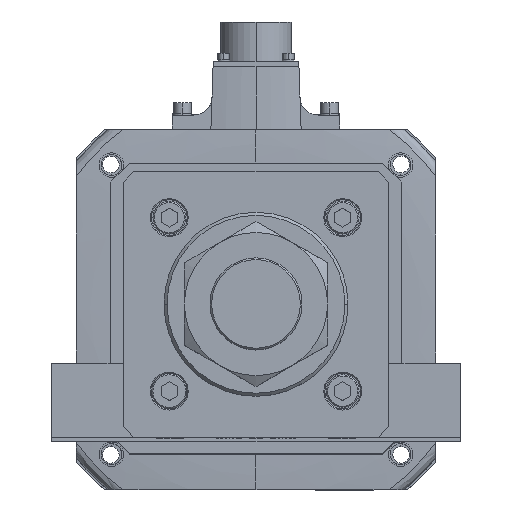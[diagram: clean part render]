
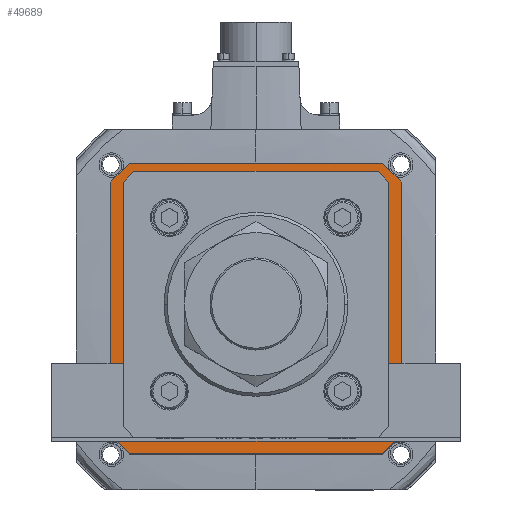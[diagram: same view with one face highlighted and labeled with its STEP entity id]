
A CAD part, top view. The second image highlights one B-rep face of the part: STEP entity #49689.
In plain terms, the highlighted planar face has unit normal (0, 0, 1).
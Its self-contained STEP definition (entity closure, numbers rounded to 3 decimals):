
#16 = FACE_BOUND ( 'NONE', #4382, .T. ) ;
#264 = LINE ( 'NONE', #42193, #1636 ) ;
#565 = ORIENTED_EDGE ( 'NONE', *, *, #32274, .T. ) ;
#1090 = LINE ( 'NONE', #27968, #35218 ) ;
#1226 = DIRECTION ( 'NONE',  ( 0., 0., 1. ) ) ;
#1306 = EDGE_CURVE ( 'NONE', #1469, #2780, #43208, .T. ) ;
#1382 = VECTOR ( 'NONE', #20285, 1000. ) ;
#1411 = VERTEX_POINT ( 'NONE', #20774 ) ;
#1446 = VERTEX_POINT ( 'NONE', #50386 ) ;
#1464 = CARTESIAN_POINT ( 'NONE',  ( -63., 0., -142. ) ) ;
#1469 = VERTEX_POINT ( 'NONE', #46650 ) ;
#1636 = VECTOR ( 'NONE', #16255, 1000. ) ;
#2089 = VECTOR ( 'NONE', #22425, 1000. ) ;
#2255 = LINE ( 'NONE', #8844, #23678 ) ;
#2330 = CARTESIAN_POINT ( 'NONE',  ( -63., 58.793, -142. ) ) ;
#2583 = CARTESIAN_POINT ( 'NONE',  ( 63., 58.793, -142. ) ) ;
#2619 = LINE ( 'NONE', #11816, #22703 ) ;
#2643 = ORIENTED_EDGE ( 'NONE', *, *, #23677, .F. ) ;
#2780 = VERTEX_POINT ( 'NONE', #29367 ) ;
#3660 = ORIENTED_EDGE ( 'NONE', *, *, #42353, .F. ) ;
#3684 = CARTESIAN_POINT ( 'NONE',  ( 58.793, -63., -142. ) ) ;
#3900 = CARTESIAN_POINT ( 'NONE',  ( 71., 62., -142. ) ) ;
#4382 = EDGE_LOOP ( 'NONE', ( #43508, #16744, #12269, #565, #23836, #48802, #7380, #32001 ) ) ;
#5222 = EDGE_CURVE ( 'NONE', #39329, #7999, #20195, .T. ) ;
#6611 = EDGE_CURVE ( 'NONE', #20297, #30259, #44490, .T. ) ;
#6903 = CARTESIAN_POINT ( 'NONE',  ( 0., 63., -142. ) ) ;
#7380 = ORIENTED_EDGE ( 'NONE', *, *, #27425, .T. ) ;
#7392 = LINE ( 'NONE', #12215, #1382 ) ;
#7687 = DIRECTION ( 'NONE',  ( 0.707, 0.707, 0. ) ) ;
#7767 = EDGE_CURVE ( 'NONE', #12377, #54321, #264, .T. ) ;
#7774 = EDGE_CURVE ( 'NONE', #45780, #1469, #42339, .T. ) ;
#7999 = VERTEX_POINT ( 'NONE', #17167 ) ;
#8373 = VECTOR ( 'NONE', #32966, 1000. ) ;
#8406 = CARTESIAN_POINT ( 'NONE',  ( 63., -58.793, -142. ) ) ;
#8844 = CARTESIAN_POINT ( 'NONE',  ( 60.896, -60.896, -142. ) ) ;
#9269 = CARTESIAN_POINT ( 'NONE',  ( 0., 0., -142. ) ) ;
#9419 = DIRECTION ( 'NONE',  ( -0.707, 0.707, 0. ) ) ;
#9790 = VECTOR ( 'NONE', #50354, 1000. ) ;
#11356 = EDGE_CURVE ( 'NONE', #30259, #12377, #2619, .T. ) ;
#11816 = CARTESIAN_POINT ( 'NONE',  ( 71., -62., -142. ) ) ;
#12215 = CARTESIAN_POINT ( 'NONE',  ( -60.896, 60.896, -142. ) ) ;
#12269 = ORIENTED_EDGE ( 'NONE', *, *, #5222, .T. ) ;
#12377 = VERTEX_POINT ( 'NONE', #21450 ) ;
#12617 = AXIS2_PLACEMENT_3D ( 'NONE', #9269, #1226, #38760 ) ;
#13315 = VECTOR ( 'NONE', #31627, 1000. ) ;
#13346 = VERTEX_POINT ( 'NONE', #8406 ) ;
#13662 = VERTEX_POINT ( 'NONE', #2583 ) ;
#13707 = CARTESIAN_POINT ( 'NONE',  ( -62., -71., -142. ) ) ;
#13987 = VECTOR ( 'NONE', #14922, 1000. ) ;
#14096 = VERTEX_POINT ( 'NONE', #36714 ) ;
#14205 = CARTESIAN_POINT ( 'NONE',  ( 63., 0., -142. ) ) ;
#14922 = DIRECTION ( 'NONE',  ( 0., 1., 0. ) ) ;
#15727 = CARTESIAN_POINT ( 'NONE',  ( -62., 71., -142. ) ) ;
#16255 = DIRECTION ( 'NONE',  ( -1., 0., 0. ) ) ;
#16744 = ORIENTED_EDGE ( 'NONE', *, *, #26835, .T. ) ;
#17167 = CARTESIAN_POINT ( 'NONE',  ( -58.793, -63., -142. ) ) ;
#19123 = ORIENTED_EDGE ( 'NONE', *, *, #7774, .F. ) ;
#20195 = LINE ( 'NONE', #34747, #2089 ) ;
#20285 = DIRECTION ( 'NONE',  ( 0.707, 0.707, 0. ) ) ;
#20297 = VERTEX_POINT ( 'NONE', #35334 ) ;
#20774 = CARTESIAN_POINT ( 'NONE',  ( -63., -58.793, -142. ) ) ;
#20922 = VECTOR ( 'NONE', #32335, 1000. ) ;
#21450 = CARTESIAN_POINT ( 'NONE',  ( 62., -71., -142. ) ) ;
#21715 = VECTOR ( 'NONE', #55204, 1000. ) ;
#21781 = DIRECTION ( 'NONE',  ( 1., 0., 0. ) ) ;
#22199 = PLANE ( 'NONE',  #12617 ) ;
#22339 = ORIENTED_EDGE ( 'NONE', *, *, #1306, .F. ) ;
#22425 = DIRECTION ( 'NONE',  ( -1., 0., 0. ) ) ;
#22703 = VECTOR ( 'NONE', #33129, 1000. ) ;
#23677 = EDGE_CURVE ( 'NONE', #14096, #20297, #1090, .T. ) ;
#23678 = VECTOR ( 'NONE', #30145, 1000. ) ;
#23836 = ORIENTED_EDGE ( 'NONE', *, *, #29781, .T. ) ;
#26835 = EDGE_CURVE ( 'NONE', #13346, #39329, #2255, .T. ) ;
#27022 = LINE ( 'NONE', #54624, #48981 ) ;
#27425 = EDGE_CURVE ( 'NONE', #53645, #1446, #30242, .T. ) ;
#27968 = CARTESIAN_POINT ( 'NONE',  ( 71., 62., -142. ) ) ;
#28059 = LINE ( 'NONE', #1464, #13987 ) ;
#28117 = CARTESIAN_POINT ( 'NONE',  ( 71., -62., -142. ) ) ;
#29367 = CARTESIAN_POINT ( 'NONE',  ( -62., 71., -142. ) ) ;
#29475 = FACE_OUTER_BOUND ( 'NONE', #31998, .T. ) ;
#29781 = EDGE_CURVE ( 'NONE', #1411, #48361, #28059, .T. ) ;
#30121 = CARTESIAN_POINT ( 'NONE',  ( -71., -62., -142. ) ) ;
#30145 = DIRECTION ( 'NONE',  ( -0.707, -0.707, 0. ) ) ;
#30242 = LINE ( 'NONE', #6903, #20922 ) ;
#30259 = VERTEX_POINT ( 'NONE', #28117 ) ;
#30579 = VECTOR ( 'NONE', #7687, 1000. ) ;
#30743 = CARTESIAN_POINT ( 'NONE',  ( 62., 71., -142. ) ) ;
#30893 = ORIENTED_EDGE ( 'NONE', *, *, #11356, .F. ) ;
#31627 = DIRECTION ( 'NONE',  ( 0., -1., 0. ) ) ;
#31998 = EDGE_LOOP ( 'NONE', ( #3660, #22339, #19123, #53633, #45870, #30893, #43024, #2643 ) ) ;
#32001 = ORIENTED_EDGE ( 'NONE', *, *, #42749, .T. ) ;
#32274 = EDGE_CURVE ( 'NONE', #7999, #1411, #49756, .T. ) ;
#32280 = DIRECTION ( 'NONE',  ( 0.707, -0.707, 0. ) ) ;
#32335 = DIRECTION ( 'NONE',  ( 1., 0., 0. ) ) ;
#32966 = DIRECTION ( 'NONE',  ( -0.707, 0.707, 0. ) ) ;
#33129 = DIRECTION ( 'NONE',  ( -0.707, -0.707, 0. ) ) ;
#34747 = CARTESIAN_POINT ( 'NONE',  ( 0., -63., -142. ) ) ;
#35218 = VECTOR ( 'NONE', #32280, 1000. ) ;
#35334 = CARTESIAN_POINT ( 'NONE',  ( 71., 62., -142. ) ) ;
#36415 = VECTOR ( 'NONE', #9419, 1000. ) ;
#36714 = CARTESIAN_POINT ( 'NONE',  ( 62., 71., -142. ) ) ;
#37727 = LINE ( 'NONE', #13707, #36415 ) ;
#38760 = DIRECTION ( 'NONE',  ( 1., 0., 0. ) ) ;
#39329 = VERTEX_POINT ( 'NONE', #3684 ) ;
#40064 = LINE ( 'NONE', #14205, #13315 ) ;
#41031 = EDGE_CURVE ( 'NONE', #54321, #45780, #37727, .T. ) ;
#41683 = CARTESIAN_POINT ( 'NONE',  ( -60.896, -60.896, -142. ) ) ;
#42193 = CARTESIAN_POINT ( 'NONE',  ( 62., -71., -142. ) ) ;
#42339 = LINE ( 'NONE', #46272, #21715 ) ;
#42353 = EDGE_CURVE ( 'NONE', #2780, #14096, #46913, .T. ) ;
#42558 = CARTESIAN_POINT ( 'NONE',  ( -58.793, 63., -142. ) ) ;
#42749 = EDGE_CURVE ( 'NONE', #1446, #13662, #27022, .T. ) ;
#43024 = ORIENTED_EDGE ( 'NONE', *, *, #6611, .F. ) ;
#43208 = LINE ( 'NONE', #15727, #30579 ) ;
#43508 = ORIENTED_EDGE ( 'NONE', *, *, #45928, .T. ) ;
#44266 = VECTOR ( 'NONE', #21781, 1000. ) ;
#44490 = LINE ( 'NONE', #3900, #9790 ) ;
#45780 = VERTEX_POINT ( 'NONE', #30121 ) ;
#45870 = ORIENTED_EDGE ( 'NONE', *, *, #7767, .F. ) ;
#45928 = EDGE_CURVE ( 'NONE', #13662, #13346, #40064, .T. ) ;
#46272 = CARTESIAN_POINT ( 'NONE',  ( -71., 62., -142. ) ) ;
#46650 = CARTESIAN_POINT ( 'NONE',  ( -71., 62., -142. ) ) ;
#46913 = LINE ( 'NONE', #30743, #44266 ) ;
#48361 = VERTEX_POINT ( 'NONE', #2330 ) ;
#48802 = ORIENTED_EDGE ( 'NONE', *, *, #49937, .T. ) ;
#48981 = VECTOR ( 'NONE', #55182, 1000. ) ;
#49689 = ADVANCED_FACE ( 'NONE', ( #16, #29475 ), #22199, .T. ) ;
#49756 = LINE ( 'NONE', #41683, #8373 ) ;
#49937 = EDGE_CURVE ( 'NONE', #48361, #53645, #7392, .T. ) ;
#50073 = CARTESIAN_POINT ( 'NONE',  ( -62., -71., -142. ) ) ;
#50354 = DIRECTION ( 'NONE',  ( 0., -1., 0. ) ) ;
#50386 = CARTESIAN_POINT ( 'NONE',  ( 58.793, 63., -142. ) ) ;
#53633 = ORIENTED_EDGE ( 'NONE', *, *, #41031, .F. ) ;
#53645 = VERTEX_POINT ( 'NONE', #42558 ) ;
#54321 = VERTEX_POINT ( 'NONE', #50073 ) ;
#54624 = CARTESIAN_POINT ( 'NONE',  ( 60.896, 60.896, -142. ) ) ;
#55182 = DIRECTION ( 'NONE',  ( 0.707, -0.707, 0. ) ) ;
#55204 = DIRECTION ( 'NONE',  ( 0., 1., 0. ) ) ;
